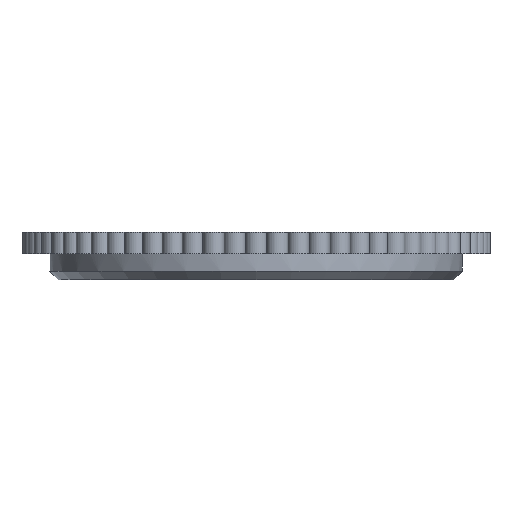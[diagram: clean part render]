
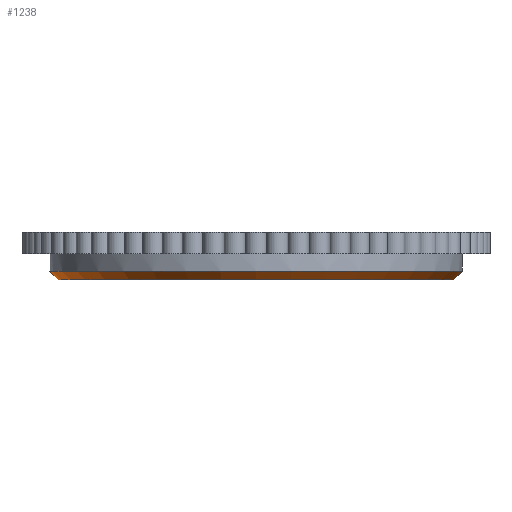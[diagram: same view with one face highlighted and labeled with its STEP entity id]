
A CAD part, front view. The second image highlights one B-rep face of the part: STEP entity #1238.
In plain terms, the highlighted conical face has half-angle 45 degrees and reference radius 24 mm.
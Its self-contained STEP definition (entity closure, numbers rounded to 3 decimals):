
#24 = VERTEX_POINT('',#25);
#25 = CARTESIAN_POINT('',(24.,0.,-2.));
#1227 = EDGE_CURVE('',#24,#24,#1228,.T.);
#1228 = CIRCLE('',#1229,24.);
#1229 = AXIS2_PLACEMENT_3D('',#1230,#1231,#1232);
#1230 = CARTESIAN_POINT('',(0.,0.,-2.));
#1231 = DIRECTION('',(0.,0.,1.));
#1232 = DIRECTION('',(1.,0.,0.));
#1238 = ADVANCED_FACE('',(#1239),#1258,.T.);
#1239 = FACE_BOUND('',#1240,.F.);
#1240 = EDGE_LOOP('',(#1241,#1249,#1250,#1251));
#1241 = ORIENTED_EDGE('',*,*,#1242,.F.);
#1242 = EDGE_CURVE('',#24,#1243,#1245,.T.);
#1243 = VERTEX_POINT('',#1244);
#1244 = CARTESIAN_POINT('',(23.,0.,-3.));
#1245 = LINE('',#1246,#1247);
#1246 = CARTESIAN_POINT('',(24.,0.,-2.));
#1247 = VECTOR('',#1248,1.);
#1248 = DIRECTION('',(-0.707,-0.,-0.707));
#1249 = ORIENTED_EDGE('',*,*,#1227,.T.);
#1250 = ORIENTED_EDGE('',*,*,#1242,.T.);
#1251 = ORIENTED_EDGE('',*,*,#1252,.F.);
#1252 = EDGE_CURVE('',#1243,#1243,#1253,.T.);
#1253 = CIRCLE('',#1254,23.);
#1254 = AXIS2_PLACEMENT_3D('',#1255,#1256,#1257);
#1255 = CARTESIAN_POINT('',(0.,0.,-3.));
#1256 = DIRECTION('',(0.,0.,1.));
#1257 = DIRECTION('',(1.,0.,0.));
#1258 = CONICAL_SURFACE('',#1259,24.,0.785);
#1259 = AXIS2_PLACEMENT_3D('',#1260,#1261,#1262);
#1260 = CARTESIAN_POINT('',(0.,0.,-2.));
#1261 = DIRECTION('',(0.,0.,1.));
#1262 = DIRECTION('',(1.,0.,0.));
